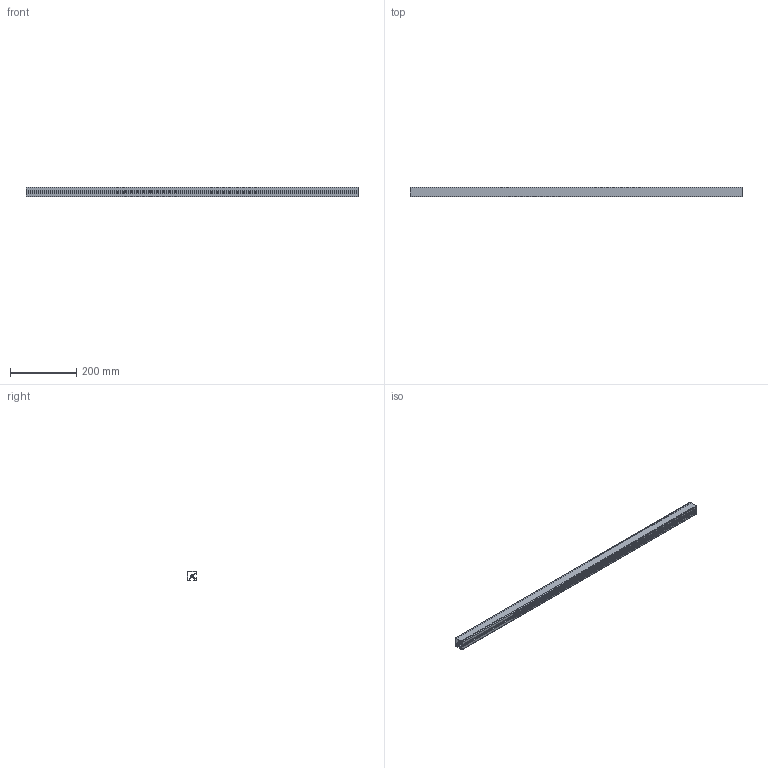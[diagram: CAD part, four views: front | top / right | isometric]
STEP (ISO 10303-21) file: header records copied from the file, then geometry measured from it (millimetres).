
FILE_DESCRIPTION (( 'STEP AP203' ), '1' );
FILE_NAME ('F33W.step', '2017-04-26T04:11:14', ( 'sr-d11' ), ( 'MouseComputer PC' ), 'SwSTEP 2.0', 'SolidWorks 2014', '' );
FILE_SCHEMA (( 'CONFIG_CONTROL_DESIGN' ));
Length unit declared in the file: millimetre
Products named in the file (1): F33W
Bounding box: 1000 x 30 x 30 mm (x, y, z)
Volume: 290431 mm3; surface area: 307744.6 mm2
Topology: 1 solids, 1 shells, 95 faces, 279 edges, 186 vertices
Faces by surface type: cylinder 54, plane 41
Entity records: 3290 total; most frequent: DIRECTION 579, CARTESIAN_POINT 561, ORIENTED_EDGE 558, EDGE_CURVE 279, AXIS2_PLACEMENT_3D 204, VERTEX_POINT 186, VECTOR 171, LINE 171
